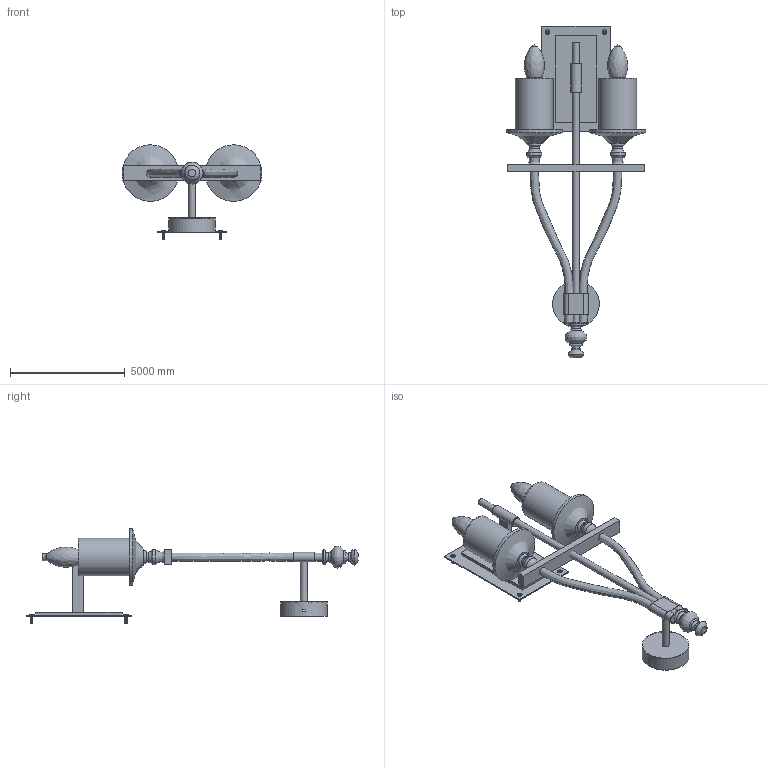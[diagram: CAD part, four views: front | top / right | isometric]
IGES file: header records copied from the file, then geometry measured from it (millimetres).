
Global section: file name: Sienna Candle Wall Sconce; native system: AutoCAD 2022 - 简体中文 (Simplified Chinese),62HAuto; preprocessor: desk Translation Framework DWG producer (atf_dwg_producer); organization: unknown; date: 20251225.175210; units: inch
Bounding box: 6096 x 14478 x 4110.67 mm (x, y, z)
Volume: 11986672105.6 mm3; surface area: 208738571.1 mm2
Topology: 30 solids, 30 shells, 434 faces, 1038 edges, 782 vertices
Faces by surface type: bspline 434
